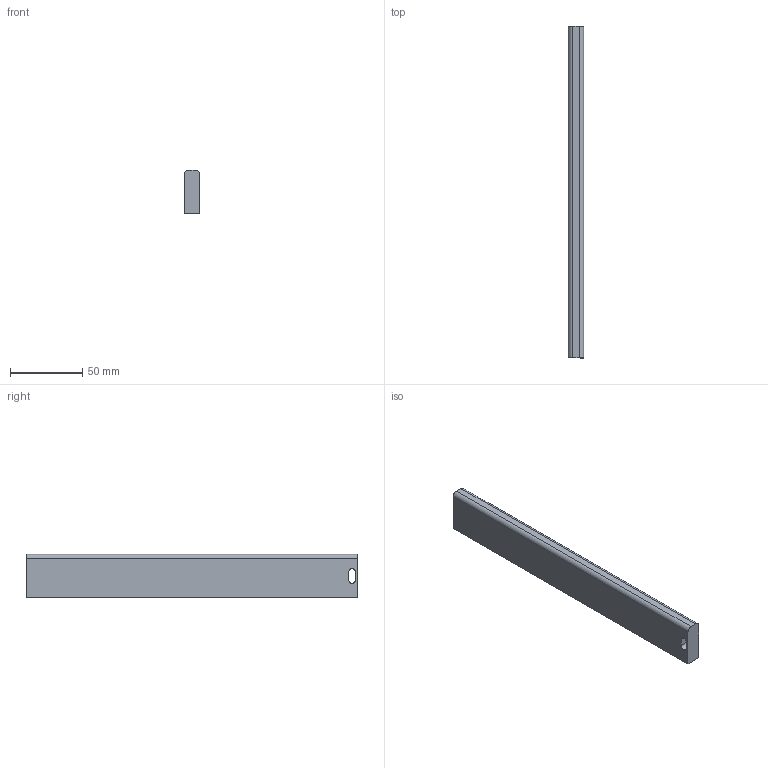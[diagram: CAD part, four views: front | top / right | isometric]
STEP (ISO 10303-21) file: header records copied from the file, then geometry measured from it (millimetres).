
FILE_DESCRIPTION (( 'STEP AP214' ), '1' );
FILE_NAME ('_Seitenreling_S610000200_RL229.step', '2010-09-06T14:51:16', ( 'grass' ), ( '' ), 'SwSTEP 2.0', 'SolidWorks 2010', '' );
FILE_SCHEMA (( 'AUTOMOTIVE_DESIGN' ));
Length unit declared in the file: millimetre
Products named in the file (1): _Seitenreling_S610000200_RL229
Bounding box: 10.5 x 229 x 30 mm (x, y, z)
Volume: 70781.7 mm3; surface area: 18762.2 mm2
Topology: 1 solids, 1 shells, 12 faces, 30 edges, 20 vertices
Faces by surface type: plane 8, cylinder 4
Entity records: 400 total; most frequent: DIRECTION 64, CARTESIAN_POINT 63, ORIENTED_EDGE 60, EDGE_CURVE 30, VECTOR 22, LINE 22, AXIS2_PLACEMENT_3D 21, VERTEX_POINT 20
